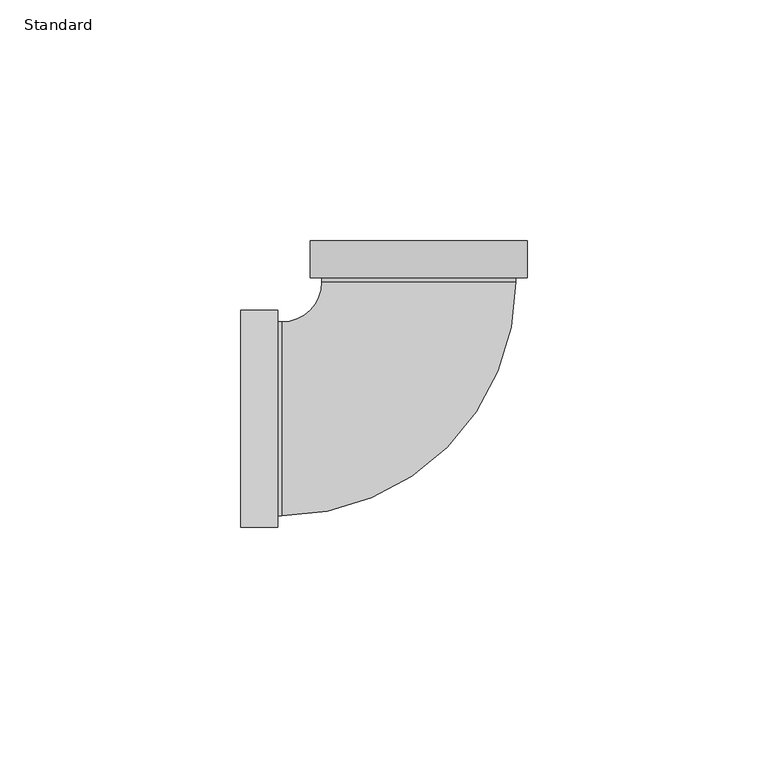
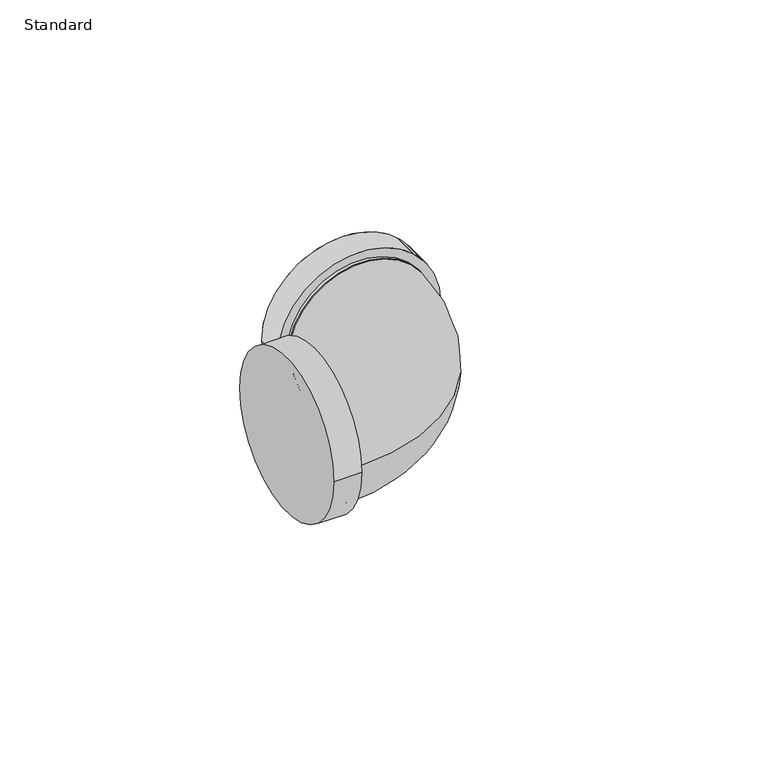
"""IFC4 building model written with IfcOpenShell, lengths in millimetres: pipe fitting geometry, Victaulic Grooved Elbow : Standard."""

from ifc_helpers import new_model, si_unit, point, frame, origin, place, context, project, spatial, circle_curve, ellipse_curve, trimmed, source, transform, mapped, element, save
from ifc_brep_helpers import plane_surface, cylinder_surface, revolved_surface, advanced_brep


def standard_237da642(model_context):
    return source(origin(), model_context, "Body", "AdvancedBrep", [
        advanced_brep(
        [(22.5, 29.2450937, 0.0), (-22.5, 29.2450937, 0.0), (-20.1, 29.2450937, 0.0), (20.1, 29.2450937, 0.0), (22.5, 36.9450937, 0.0), (-22.5, 36.9450937, 0.0), (20.1, 28.4513437, 0.0), (-20.1, 28.4513437, 0.0)],
        [
            (0, 1, circle_curve(frame((0.0, 29.2450937, 0.0), z_axis=(0.0, -1.0, 0.0), x_axis=(-1.0, 0.0, 0.0)), 22.5)),
            (1, 0, circle_curve(frame((0.0, 29.2450937, 0.0), z_axis=(0.0, -1.0, 0.0), x_axis=(-1.0, 0.0, 0.0)), 22.5)),
            (2, 3, circle_curve(frame((0.0, 29.2450937, 0.0), z_axis=(0.0, 1.0, 0.0), x_axis=(-1.0, 0.0, 0.0)), 20.1)),
            (3, 2, circle_curve(frame((0.0, 29.2450937, 0.0), z_axis=(0.0, 1.0, 0.0), x_axis=(-1.0, 0.0, 0.0)), 20.1)),
            (4, 5, circle_curve(frame((0.0, 36.9450937, 0.0), z_axis=(0.0, 1.0, 0.0), x_axis=(-1.0, 0.0, 0.0)), 22.5)),
            (5, 4, circle_curve(frame((0.0, 36.9450937, 0.0), z_axis=(0.0, 1.0, 0.0), x_axis=(-1.0, 0.0, 0.0)), 22.5)),
            (0, 4),
            (5, 1),
            (6, 7, circle_curve(frame((0.0, 28.4513437, 0.0), z_axis=(0.0, -1.0, 0.0), x_axis=(-1.0, 0.0, 0.0)), 20.1)),
            (7, 6, circle_curve(frame((0.0, 28.4513437, 0.0), z_axis=(0.0, -1.0, 0.0), x_axis=(-1.0, 0.0, 0.0)), 20.1)),
            (6, 3),
            (2, 7),
        ],
        [
            plane_surface(frame((0.0, 29.2450937, 0.0), z_axis=(0.0, -1.0, 0.0), x_axis=(0.0, 0.0, 1.0))),
            plane_surface(frame((0.0, 36.9450937, 0.0), z_axis=(0.0, 1.0, 0.0), x_axis=(0.0, 0.0, 1.0))),
            cylinder_surface(frame((0.0, 29.2450937, 0.0), z_axis=(0.0, -1.0, 0.0), x_axis=(-1.0, 0.0, 0.0)), 22.5),
            plane_surface(frame((0.0, 28.4513437, 0.0), z_axis=(0.0, -1.0, 0.0), x_axis=(0.0, 0.0, 1.0))),
            cylinder_surface(frame((0.0, 28.4513437, 0.0), z_axis=(0.0, -1.0, 0.0), x_axis=(-1.0, 0.0, 0.0)), 20.1),
        ],
        [
            (0, [[1, 2], [3, 4]]),
            (1, [[5, 6]]),
            (2, [[-1, 7, -6, 8]]),
            (2, [[-2, -8, -5, -7]]),
            (3, [[9, 10]]),
            (4, [[-9, 11, -3, 12]]),
            (4, [[-10, -12, -4, -11]]),
        ],
    ),
        advanced_brep(
        [(-29.2450937, 22.5, 0.0), (-29.2450937, -22.5, 0.0), (-29.2450937, -20.1, 0.0), (-29.2450937, 20.1, 0.0), (-36.9450937, 22.5, 0.0), (-36.9450937, -22.5, 0.0), (-28.4513437, 20.1, 0.0), (-28.4513437, -20.1, 0.0)],
        [
            (0, 1, circle_curve(frame((-29.2450937, 0.0, 0.0), z_axis=(1.0, 0.0, 0.0), x_axis=(0.0, -1.0, 0.0)), 22.5)),
            (1, 0, circle_curve(frame((-29.2450937, 0.0, 0.0), z_axis=(1.0, 0.0, 0.0), x_axis=(0.0, -1.0, 0.0)), 22.5)),
            (2, 3, circle_curve(frame((-29.2450937, 0.0, 0.0), z_axis=(-1.0, 0.0, 0.0), x_axis=(0.0, -1.0, 0.0)), 20.1)),
            (3, 2, circle_curve(frame((-29.2450937, 0.0, 0.0), z_axis=(-1.0, 0.0, 0.0), x_axis=(0.0, -1.0, 0.0)), 20.1)),
            (4, 5, circle_curve(frame((-36.9450937, 0.0, 0.0), z_axis=(-1.0, 0.0, 0.0), x_axis=(0.0, -1.0, 0.0)), 22.5)),
            (5, 4, circle_curve(frame((-36.9450937, 0.0, 0.0), z_axis=(-1.0, 0.0, 0.0), x_axis=(0.0, -1.0, 0.0)), 22.5)),
            (0, 4),
            (5, 1),
            (6, 7, circle_curve(frame((-28.4513437, 0.0, 0.0), z_axis=(1.0, 0.0, 0.0), x_axis=(0.0, -1.0, 0.0)), 20.1)),
            (7, 6, circle_curve(frame((-28.4513437, 0.0, 0.0), z_axis=(1.0, 0.0, 0.0), x_axis=(0.0, -1.0, 0.0)), 20.1)),
            (6, 3),
            (2, 7),
        ],
        [
            plane_surface(frame((-29.2450937, 0.0, 0.0), z_axis=(1.0, 0.0, 0.0), x_axis=(0.0, 0.0, 1.0))),
            plane_surface(frame((-36.9450937, 0.0, 0.0), z_axis=(-1.0, 0.0, 0.0), x_axis=(0.0, 0.0, 1.0))),
            cylinder_surface(frame((-29.2450937, 0.0, 0.0), z_axis=(1.0, 0.0, 0.0), x_axis=(0.0, -1.0, 0.0)), 22.5),
            plane_surface(frame((-28.4513437, 0.0, 0.0), z_axis=(1.0, 0.0, 0.0), x_axis=(0.0, 0.0, 1.0))),
            cylinder_surface(frame((-28.4513437, 0.0, 0.0), z_axis=(1.0, 0.0, 0.0), x_axis=(0.0, -1.0, 0.0)), 20.1),
        ],
        [
            (0, [[1, 2], [3, 4]]),
            (1, [[5, 6]]),
            (2, [[-1, 7, -6, 8]]),
            (2, [[-2, -8, -5, -7]]),
            (3, [[9, 10]]),
            (4, [[-9, 11, -3, 12]]),
            (4, [[-10, -12, -4, -11]]),
        ],
    ),
        advanced_brep(
        [(-22.5, 36.9450937, 0.0), (22.5, 36.9450937, 0.0), (-22.5, 29.2450937, 0.0), (22.5, 29.2450937, 0.0), (-20.1, 29.2450937, 0.0), (20.1, 29.2450937, 0.0), (20.1, 28.4513437, 0.0), (-20.1, 28.4513437, 0.0)],
        [
            (0, 1, circle_curve(frame((0.0, 36.9450937, 0.0), z_axis=(0.0, 1.0, 0.0), x_axis=(1.0, 0.0, 0.0)), 22.5)),
            (1, 0, circle_curve(frame((0.0, 36.9450937, 0.0), z_axis=(0.0, 1.0, 0.0), x_axis=(1.0, 0.0, 0.0)), 22.5)),
            (2, 3, circle_curve(frame((0.0, 29.2450937, 0.0), z_axis=(0.0, -1.0, 0.0), x_axis=(1.0, 0.0, 0.0)), 22.5)),
            (3, 2, circle_curve(frame((0.0, 29.2450937, 0.0), z_axis=(0.0, -1.0, 0.0), x_axis=(1.0, 0.0, 0.0)), 22.5)),
            (4, 5, circle_curve(frame((0.0, 29.2450937, 0.0), z_axis=(0.0, 1.0, 0.0), x_axis=(-1.0, 0.0, 0.0)), 20.1)),
            (5, 4, circle_curve(frame((0.0, 29.2450937, 0.0), z_axis=(0.0, 1.0, 0.0), x_axis=(-1.0, 0.0, 0.0)), 20.1)),
            (0, 2),
            (3, 1),
            (6, 7, circle_curve(frame((0.0, 28.4513437, 0.0), z_axis=(0.0, -1.0, 0.0), x_axis=(-1.0, 0.0, 0.0)), 20.1)),
            (7, 6, circle_curve(frame((0.0, 28.4513437, 0.0), z_axis=(0.0, -1.0, 0.0), x_axis=(-1.0, 0.0, 0.0)), 20.1)),
            (6, 5),
            (4, 7),
        ],
        [
            plane_surface(frame((0.0, 36.9450937, 0.0), z_axis=(0.0, 1.0, 0.0), x_axis=(0.0, 0.0, 1.0))),
            plane_surface(frame((0.0, 29.2450937, 0.0), z_axis=(0.0, -1.0, 0.0), x_axis=(0.0, 0.0, 1.0))),
            cylinder_surface(frame((0.0, 36.9450937, 0.0), z_axis=(0.0, 1.0, 0.0), x_axis=(1.0, 0.0, 0.0)), 22.5),
            plane_surface(frame((0.0, 28.4513437, 0.0), z_axis=(0.0, -1.0, 0.0), x_axis=(0.0, 0.0, 1.0))),
            cylinder_surface(frame((0.0, 28.4513437, 0.0), z_axis=(0.0, -1.0, 0.0), x_axis=(-1.0, 0.0, 0.0)), 20.1),
        ],
        [
            (0, [[1, 2]]),
            (1, [[3, 4], [5, 6]]),
            (2, [[-1, 7, -4, 8]]),
            (2, [[-2, -8, -3, -7]]),
            (3, [[9, 10]]),
            (4, [[-9, 11, -5, 12]]),
            (4, [[-10, -12, -6, -11]]),
        ],
    ),
        advanced_brep(
        [(-29.2450937, -22.5, 0.0), (-29.2450937, 22.5, 0.0), (-29.2450937, -20.1, 0.0), (-29.2450937, 20.1, 0.0), (-36.9450937, -22.5, 0.0), (-36.9450937, 22.5, 0.0), (-28.4513437, 20.1, 0.0), (-28.4513437, -20.1, 0.0)],
        [
            (0, 1, circle_curve(frame((-29.2450937, 0.0, 0.0), z_axis=(1.0, 0.0, 0.0), x_axis=(0.0, 1.0, 0.0)), 22.5)),
            (1, 0, circle_curve(frame((-29.2450937, 0.0, 0.0), z_axis=(1.0, 0.0, 0.0), x_axis=(0.0, 1.0, 0.0)), 22.5)),
            (2, 3, circle_curve(frame((-29.2450937, 0.0, 0.0), z_axis=(-1.0, 0.0, 0.0), x_axis=(0.0, -1.0, 0.0)), 20.1)),
            (3, 2, circle_curve(frame((-29.2450937, 0.0, 0.0), z_axis=(-1.0, 0.0, 0.0), x_axis=(0.0, -1.0, 0.0)), 20.1)),
            (4, 5, circle_curve(frame((-36.9450937, 0.0, 0.0), z_axis=(-1.0, 0.0, 0.0), x_axis=(0.0, 1.0, 0.0)), 22.5)),
            (5, 4, circle_curve(frame((-36.9450937, 0.0, 0.0), z_axis=(-1.0, 0.0, 0.0), x_axis=(0.0, 1.0, 0.0)), 22.5)),
            (0, 4),
            (5, 1),
            (6, 7, circle_curve(frame((-28.4513437, 0.0, 0.0), z_axis=(1.0, 0.0, 0.0), x_axis=(0.0, -1.0, 0.0)), 20.1)),
            (7, 6, circle_curve(frame((-28.4513437, 0.0, 0.0), z_axis=(1.0, 0.0, 0.0), x_axis=(0.0, -1.0, 0.0)), 20.1)),
            (6, 3),
            (2, 7),
        ],
        [
            plane_surface(frame((-29.2450937, 22.5, 0.0), z_axis=(1.0, 0.0, 0.0), x_axis=(0.0, 0.0, 1.0))),
            plane_surface(frame((-36.9450937, 22.5, 0.0), z_axis=(-1.0, 0.0, 0.0), x_axis=(0.0, 0.0, -1.0))),
            cylinder_surface(frame((-36.9450937, 0.0, 0.0), z_axis=(1.0, 0.0, 0.0), x_axis=(0.0, 1.0, 0.0)), 22.5),
            plane_surface(frame((-28.4513437, 0.0, 0.0), z_axis=(1.0, 0.0, 0.0), x_axis=(0.0, 0.0, 1.0))),
            cylinder_surface(frame((-28.4513437, 0.0, 0.0), z_axis=(1.0, 0.0, 0.0), x_axis=(0.0, -1.0, 0.0)), 20.1),
        ],
        [
            (0, [[1, 2], [3, 4]]),
            (1, [[5, 6]]),
            (2, [[-1, 7, -6, 8]]),
            (2, [[-2, -8, -5, -7]]),
            (3, [[9, 10]]),
            (4, [[-9, 11, -3, 12]]),
            (4, [[-10, -12, -4, -11]]),
        ],
    ),
        advanced_brep(
        [(20.1, 28.4513437, 0.0), (-20.1, 28.4513437, 0.0), (-28.4513437, -20.1, 0.0), (-28.4513437, 20.1, 0.0)],
        [
            (0, 1, circle_curve(frame((0.0, 28.4513437, 0.0), z_axis=(0.0, 1.0, 0.0), x_axis=(-1.0, 0.0, 0.0)), 20.1)),
            (1, 0, circle_curve(frame((0.0, 28.4513437, 0.0), z_axis=(0.0, 1.0, 0.0), x_axis=(-1.0, 0.0, 0.0)), 20.1)),
            (2, 3, circle_curve(frame((-28.4513437, 0.0, 0.0), z_axis=(-1.0, 0.0, 0.0), x_axis=(0.0, 1.0, 0.0)), 20.1)),
            (3, 2, circle_curve(frame((-28.4513437, 0.0, 0.0), z_axis=(-1.0, 0.0, 0.0), x_axis=(0.0, 1.0, 0.0)), 20.1)),
            (3, 1, circle_curve(frame((-28.4513437, 28.4513437, 0.0), z_axis=(0.0, 0.0, 1.0), x_axis=(1.0, 0.0, 0.0)), 8.3513438)),
            (0, 2, circle_curve(frame((-28.4513437, 28.4513437, 0.0), z_axis=(0.0, 0.0, -1.0), x_axis=(1.0, 0.0, 0.0)), 48.5513438)),
        ],
        [
            plane_surface(frame((0.0, 28.4513437, 0.0), z_axis=(0.0, 1.0, 0.0), x_axis=(0.0, 0.0, -1.0))),
            plane_surface(frame((-28.4513437, 0.0, 0.0), z_axis=(-1.0, 0.0, 0.0), x_axis=(0.0, 0.0, -1.0))),
            revolved_surface(trimmed(ellipse_curve(frame((0.0, 28.4513437, 0.0), z_axis=(0.0, -1.0, 0.0), x_axis=(-1.0, 0.0, 0.0)), 20.1, 20.1), [point((-20.1, 28.4513437, 0.0))], [point((20.1, 28.4513437, 0.0))], True, "CARTESIAN"), (-28.4513437, 28.4513437, 0.0), (0.0, 0.0, 1.0)),
            revolved_surface(trimmed(ellipse_curve(frame((0.0, 28.4513437, 0.0), z_axis=(0.0, -1.0, 0.0), x_axis=(-1.0, 0.0, 0.0)), 20.1, 20.1), [point((20.1, 28.4513437, 0.0))], [point((-20.1, 28.4513437, 0.0))], True, "CARTESIAN"), (-28.4513437, 28.4513437, 0.0), (0.0, 0.0, 1.0)),
        ],
        [
            (0, [[1, 2]]),
            (1, [[3, 4]]),
            (2, [[-4, 5, -1, 6]]),
            (3, [[-3, -6, -2, -5]]),
        ],
    ),
        advanced_brep(
        [(20.1, 28.4513437, 0.0), (-20.1, 28.4513437, 0.0), (-28.4513437, -20.1, 0.0), (-28.4513437, 20.1, 0.0)],
        [
            (0, 1, circle_curve(frame((0.0, 28.4513437, 0.0), z_axis=(0.0, 1.0, 0.0), x_axis=(-1.0, 0.0, 0.0)), 20.1)),
            (1, 0, circle_curve(frame((0.0, 28.4513437, 0.0), z_axis=(0.0, 1.0, 0.0), x_axis=(-1.0, 0.0, 0.0)), 20.1)),
            (2, 3, circle_curve(frame((-28.4513437, 0.0, 0.0), z_axis=(-1.0, 0.0, 0.0), x_axis=(0.0, 1.0, 0.0)), 20.1)),
            (3, 2, circle_curve(frame((-28.4513437, 0.0, 0.0), z_axis=(-1.0, 0.0, 0.0), x_axis=(0.0, 1.0, 0.0)), 20.1)),
            (3, 1, circle_curve(frame((-28.4513437, 28.4513437, 0.0), z_axis=(0.0, 0.0, 1.0), x_axis=(1.0, 0.0, 0.0)), 8.3513438)),
            (0, 2, circle_curve(frame((-28.4513437, 28.4513437, 0.0), z_axis=(0.0, 0.0, -1.0), x_axis=(1.0, 0.0, 0.0)), 48.5513438)),
        ],
        [
            plane_surface(frame((0.0, 28.4513437, 0.0), z_axis=(0.0, 1.0, 0.0), x_axis=(0.0, 0.0, -1.0))),
            plane_surface(frame((-28.4513437, 0.0, 0.0), z_axis=(-1.0, 0.0, 0.0), x_axis=(0.0, 0.0, -1.0))),
            revolved_surface(trimmed(ellipse_curve(frame((0.0, 28.4513437, 0.0), z_axis=(0.0, -1.0, 0.0), x_axis=(-1.0, 0.0, 0.0)), 20.1, 20.1), [point((-20.1, 28.4513437, 0.0))], [point((20.1, 28.4513437, 0.0))], True, "CARTESIAN"), (-28.4513437, 28.4513437, 0.0), (0.0, 0.0, 1.0)),
            revolved_surface(trimmed(ellipse_curve(frame((0.0, 28.4513437, 0.0), z_axis=(0.0, -1.0, 0.0), x_axis=(-1.0, 0.0, 0.0)), 20.1, 20.1), [point((20.1, 28.4513437, 0.0))], [point((-20.1, 28.4513437, 0.0))], True, "CARTESIAN"), (-28.4513437, 28.4513437, 0.0), (0.0, 0.0, 1.0)),
        ],
        [
            (0, [[1, 2]]),
            (1, [[3, 4]]),
            (2, [[-4, 5, -1, 6]]),
            (3, [[-3, -6, -2, -5]]),
        ],
    ),
    ])


if __name__ == "__main__":
    model = new_model("IFC4")
    model_context = context("Model", 3, world=origin())
    ifc_project = project(units=[si_unit("LENGTHUNIT", "METRE", prefix="MILLI")], contexts=[model_context])
    site = spatial("IfcSite", under=ifc_project)
    building = spatial("IfcBuilding", under=site)
    placement = place(None, origin())
    standard_shape = standard_237da642(model_context)
    element("IfcPipeFitting", 1, ObjectType="Victaulic Grooved Elbow : Standard", at=placement, inside=building, context=model_context, shape_type="MappedRepresentation", body=[
        mapped(standard_shape, transform((0.0, 0.0, 0.0), x_axis=(1.0, 0.0, 0.0), y_axis=(0.0, 1.0, 0.0), z_axis=(0.0, 0.0, 1.0))),
    ])
    save(model, "model.ifc")
